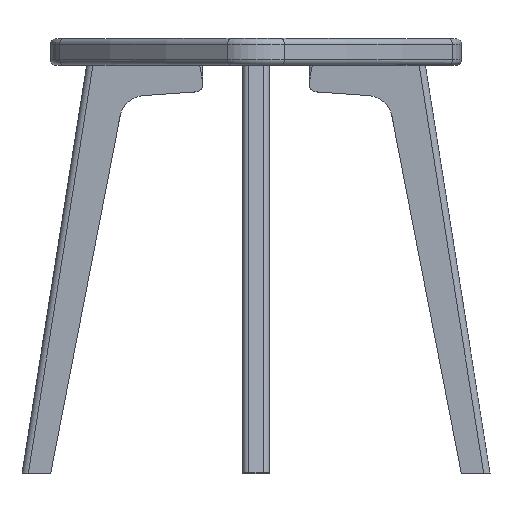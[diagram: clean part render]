
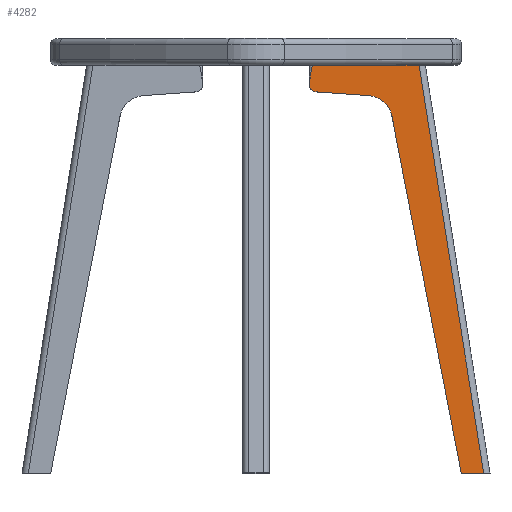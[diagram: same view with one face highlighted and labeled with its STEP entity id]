
A CAD part, top view. The second image highlights one B-rep face of the part: STEP entity #4282.
In plain terms, the highlighted planar face has unit normal (0, 0, 1).
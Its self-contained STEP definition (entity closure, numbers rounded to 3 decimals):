
#47 = CARTESIAN_POINT ( 'NONE',  ( 61.5, 171.125, 13.95 ) ) ;
#89 = VECTOR ( 'NONE', #2406, 1000. ) ;
#192 = EDGE_CURVE ( 'NONE', #5419, #5790, #2185, .T. ) ;
#224 = AXIS2_PLACEMENT_3D ( 'NONE', #747, #4034, #2672 ) ;
#235 = EDGE_CURVE ( 'NONE', #5790, #5030, #2787, .T. ) ;
#250 = LINE ( 'NONE', #4210, #3445 ) ;
#289 = VERTEX_POINT ( 'NONE', #3316 ) ;
#298 = LINE ( 'NONE', #5864, #89 ) ;
#339 = CARTESIAN_POINT ( 'NONE',  ( 144., 0., 13.95 ) ) ;
#552 = CARTESIAN_POINT ( 'NONE',  ( 61.5, 171.125, 13.95 ) ) ;
#636 = CARTESIAN_POINT ( 'NONE',  ( 144., 171.125, 13.95 ) ) ;
#727 = EDGE_CURVE ( 'NONE', #2654, #2126, #2863, .T. ) ;
#744 = DIRECTION ( 'NONE',  ( -1., 0., 0. ) ) ;
#747 = CARTESIAN_POINT ( 'NONE',  ( 116.282, 85.101, 13.95 ) ) ;
#773 = VERTEX_POINT ( 'NONE', #2859 ) ;
#812 = CARTESIAN_POINT ( 'NONE',  ( 146.5, 150.625, 13.95 ) ) ;
#816 = VECTOR ( 'NONE', #3562, 1000. ) ;
#846 = CARTESIAN_POINT ( 'NONE',  ( 62.942, 115.396, 13.95 ) ) ;
#917 = VECTOR ( 'NONE', #744, 1000. ) ;
#975 = CIRCLE ( 'NONE', #224, 26.5 ) ;
#1016 = DIRECTION ( 'NONE',  ( 0., 0., 1. ) ) ;
#1030 = VERTEX_POINT ( 'NONE', #1179 ) ;
#1101 = CARTESIAN_POINT ( 'NONE',  ( 0., 171.125, 13.95 ) ) ;
#1120 = VECTOR ( 'NONE', #3261, 1000. ) ;
#1176 = EDGE_LOOP ( 'NONE', ( #3853, #3548, #6011, #5284, #1540, #3097, #6157, #4012, #4169, #5863, #2502 ) ) ;
#1179 = CARTESIAN_POINT ( 'NONE',  ( 238.419, -283.875, 13.95 ) ) ;
#1540 = ORIENTED_EDGE ( 'NONE', *, *, #4624, .T. ) ;
#1860 = VERTEX_POINT ( 'NONE', #636 ) ;
#1873 = CARTESIAN_POINT ( 'NONE',  ( 63.5, 123.377, 13.95 ) ) ;
#1966 = CARTESIAN_POINT ( 'NONE',  ( 170.764, 143.125, 13.95 ) ) ;
#2082 = LINE ( 'NONE', #2112, #816 ) ;
#2112 = CARTESIAN_POINT ( 'NONE',  ( 0., -283.875, 13.95 ) ) ;
#2121 = AXIS2_PLACEMENT_3D ( 'NONE', #812, #2689, #4657 ) ;
#2126 = VERTEX_POINT ( 'NONE', #846 ) ;
#2185 = LINE ( 'NONE', #4067, #917 ) ;
#2327 = AXIS2_PLACEMENT_3D ( 'NONE', #1873, #1016, #3830 ) ;
#2361 = B_SPLINE_CURVE_WITH_KNOTS ( 'NONE', 3,
 ( #47, #2553, #5909, #3502 ),
 .UNSPECIFIED., .F., .F.,
 ( 4, 4 ),
 ( 0.219, 0.267 ),
 .UNSPECIFIED. ) ;
#2394 = VECTOR ( 'NONE', #5402, 1000. ) ;
#2406 = DIRECTION ( 'NONE',  ( -0.156, 0.988, 0. ) ) ;
#2490 = AXIS2_PLACEMENT_3D ( 'NONE', #4795, #2918, #3877 ) ;
#2499 = EDGE_CURVE ( 'NONE', #2126, #3878, #250, .T. ) ;
#2502 = ORIENTED_EDGE ( 'NONE', *, *, #5457, .T. ) ;
#2553 = CARTESIAN_POINT ( 'NONE',  ( 61.5, 155.209, 13.95 ) ) ;
#2625 = CARTESIAN_POINT ( 'NONE',  ( 144., 157.696, 13.95 ) ) ;
#2654 = VERTEX_POINT ( 'NONE', #5353 ) ;
#2672 = DIRECTION ( 'NONE',  ( -1., 0., 0. ) ) ;
#2689 = DIRECTION ( 'NONE',  ( 0., 0., -1. ) ) ;
#2787 = CIRCLE ( 'NONE', #2121, 7.5 ) ;
#2820 = DIRECTION ( 'NONE',  ( 0., 1., 0. ) ) ;
#2859 = CARTESIAN_POINT ( 'NONE',  ( 142.295, 90.158, 13.95 ) ) ;
#2863 = CIRCLE ( 'NONE', #2327, 8. ) ;
#2918 = DIRECTION ( 'NONE',  ( 0., 0., -1. ) ) ;
#2994 = CARTESIAN_POINT ( 'NONE',  ( 146.5, 143.125, 13.95 ) ) ;
#3000 = LINE ( 'NONE', #1101, #2394 ) ;
#3097 = ORIENTED_EDGE ( 'NONE', *, *, #3855, .F. ) ;
#3261 = DIRECTION ( 'NONE',  ( -0.191, 0.982, 0. ) ) ;
#3316 = CARTESIAN_POINT ( 'NONE',  ( 215., -283.875, 13.95 ) ) ;
#3339 = EDGE_CURVE ( 'NONE', #3644, #1860, #3000, .T. ) ;
#3445 = VECTOR ( 'NONE', #4664, 1000. ) ;
#3502 = CARTESIAN_POINT ( 'NONE',  ( 55.5, 123.377, 13.95 ) ) ;
#3548 = ORIENTED_EDGE ( 'NONE', *, *, #4565, .T. ) ;
#3562 = DIRECTION ( 'NONE',  ( -1., 0., 0. ) ) ;
#3644 = VERTEX_POINT ( 'NONE', #552 ) ;
#3830 = DIRECTION ( 'NONE',  ( -1., 0., 0. ) ) ;
#3853 = ORIENTED_EDGE ( 'NONE', *, *, #3339, .F. ) ;
#3855 = EDGE_CURVE ( 'NONE', #289, #773, #4481, .T. ) ;
#3874 = LINE ( 'NONE', #339, #5228 ) ;
#3877 = DIRECTION ( 'NONE',  ( -1., 0., 0. ) ) ;
#3878 = VERTEX_POINT ( 'NONE', #4783 ) ;
#4012 = ORIENTED_EDGE ( 'NONE', *, *, #4485, .T. ) ;
#4032 = FACE_OUTER_BOUND ( 'NONE', #1176, .T. ) ;
#4034 = DIRECTION ( 'NONE',  ( 0., 0., -1. ) ) ;
#4067 = CARTESIAN_POINT ( 'NONE',  ( 0., 143.125, 13.95 ) ) ;
#4169 = ORIENTED_EDGE ( 'NONE', *, *, #192, .T. ) ;
#4210 = CARTESIAN_POINT ( 'NONE',  ( 8.336, 119.214, 13.95 ) ) ;
#4282 = ADVANCED_FACE ( 'NONE', ( #4032 ), #5317, .F. ) ;
#4481 = LINE ( 'NONE', #6080, #1120 ) ;
#4485 = EDGE_CURVE ( 'NONE', #1030, #5419, #298, .T. ) ;
#4565 = EDGE_CURVE ( 'NONE', #3644, #2654, #2361, .T. ) ;
#4614 = EDGE_CURVE ( 'NONE', #1030, #289, #2082, .T. ) ;
#4624 = EDGE_CURVE ( 'NONE', #3878, #773, #975, .T. ) ;
#4657 = DIRECTION ( 'NONE',  ( -1., 0., 0. ) ) ;
#4664 = DIRECTION ( 'NONE',  ( 0.998, -0.07, 0. ) ) ;
#4783 = CARTESIAN_POINT ( 'NONE',  ( 118.131, 111.537, 13.95 ) ) ;
#4795 = CARTESIAN_POINT ( 'NONE',  ( 0., 0., 13.95 ) ) ;
#5030 = VERTEX_POINT ( 'NONE', #2625 ) ;
#5228 = VECTOR ( 'NONE', #2820, 1000. ) ;
#5284 = ORIENTED_EDGE ( 'NONE', *, *, #2499, .T. ) ;
#5317 = PLANE ( 'NONE',  #2490 ) ;
#5353 = CARTESIAN_POINT ( 'NONE',  ( 55.5, 123.377, 13.95 ) ) ;
#5402 = DIRECTION ( 'NONE',  ( 1., 0., 0. ) ) ;
#5419 = VERTEX_POINT ( 'NONE', #1966 ) ;
#5457 = EDGE_CURVE ( 'NONE', #5030, #1860, #3874, .T. ) ;
#5790 = VERTEX_POINT ( 'NONE', #2994 ) ;
#5863 = ORIENTED_EDGE ( 'NONE', *, *, #235, .T. ) ;
#5864 = CARTESIAN_POINT ( 'NONE',  ( 188.704, 29.899, 13.95 ) ) ;
#5909 = CARTESIAN_POINT ( 'NONE',  ( 58.5, 139.293, 13.95 ) ) ;
#6011 = ORIENTED_EDGE ( 'NONE', *, *, #727, .T. ) ;
#6080 = CARTESIAN_POINT ( 'NONE',  ( 154.002, 29.935, 13.95 ) ) ;
#6157 = ORIENTED_EDGE ( 'NONE', *, *, #4614, .F. ) ;
